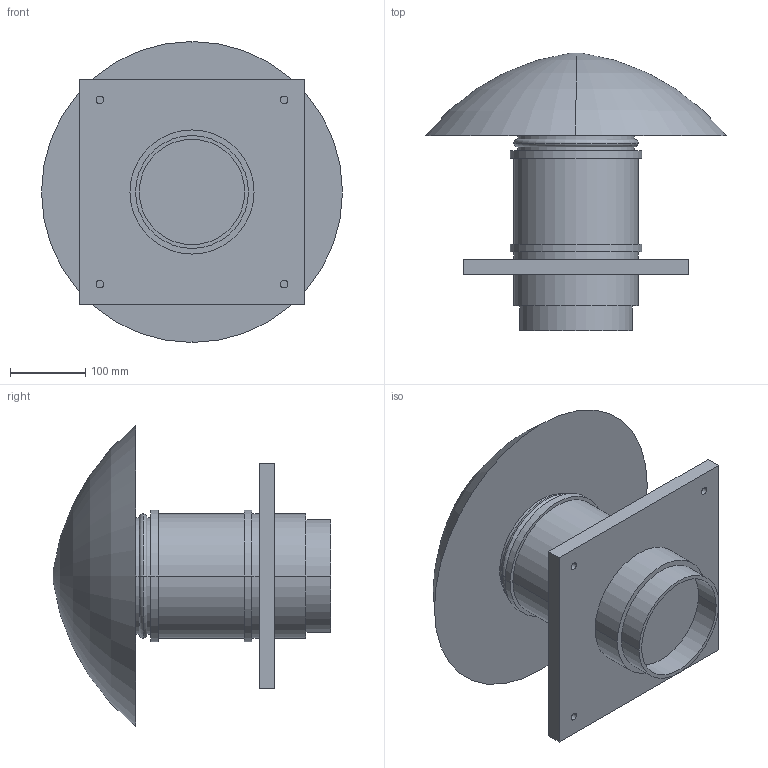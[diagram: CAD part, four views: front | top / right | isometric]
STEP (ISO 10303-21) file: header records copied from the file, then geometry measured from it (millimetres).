
FILE_DESCRIPTION(('STEP AP214'),'1');
FILE_NAME('5220025200.stp','2019-05-13T14:54:29',('TraceParts'),('TraceParts S.A.'),'Spatial InterOp 3D',' ',' ');
FILE_SCHEMA(('AUTOMOTIVE_DESIGN { 1 0 10303 214 1 1 1 1 }'));
Length unit declared in the file: millimetre
Products named in the file (1): 5220025200
Bounding box: 400 x 369 x 400 mm (x, y, z)
Volume: 13215524.4 mm3; surface area: 602679.6 mm2
Topology: 1 solids, 1 shells, 47 faces, 102 edges, 66 vertices
Faces by surface type: cylinder 26, plane 15, torus 6
Entity records: 1343 total; most frequent: DIRECTION 262, CARTESIAN_POINT 216, ORIENTED_EDGE 204, AXIS2_PLACEMENT_3D 112, EDGE_CURVE 102, VERTEX_POINT 66, EDGE_LOOP 64, CIRCLE 64
